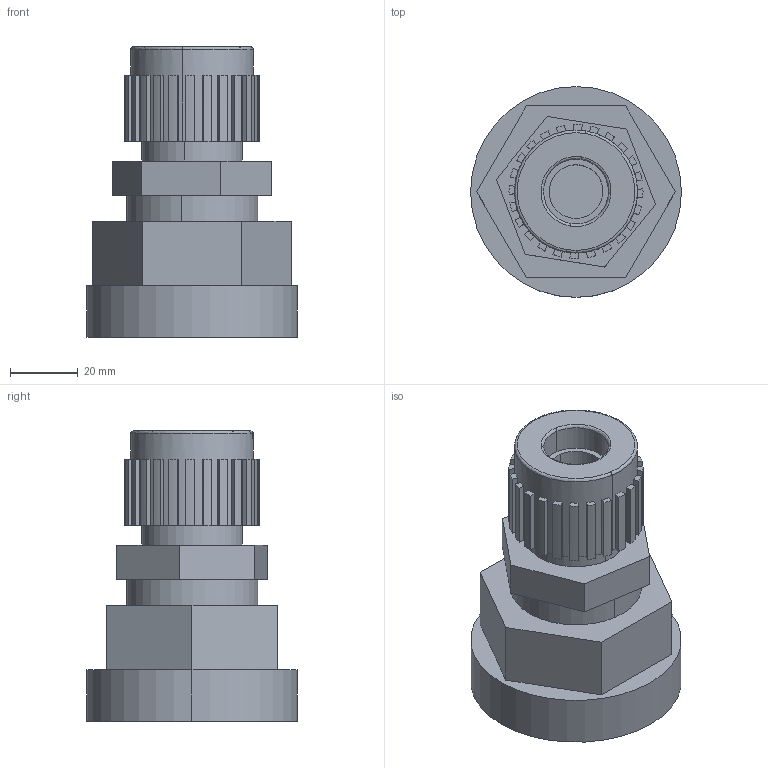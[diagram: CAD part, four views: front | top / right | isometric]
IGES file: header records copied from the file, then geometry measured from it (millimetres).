
Start section: SolidWorks IGES file using analytic representation for surfaces
Global section: file name: S:\Product Visuals\Pumps to be Defeatured\140 fittings\FITTING ASSEMBLIES\DEFEATURED\top-out\12-s-300-top-out.IGS; native system: SolidWorks 2012; preprocessor: SolidWorks 2012; author: rachel.dressel; date: 121203.143653; units: inch
Bounding box: 62.33 x 62.33 x 85.81 mm (x, y, z)
Volume: 141548.2 mm3; surface area: 23159.5 mm2
Topology: 1 solids, 1 shells, 133 faces, 368 edges, 244 vertices
Faces by surface type: plane 93, revolution 40
